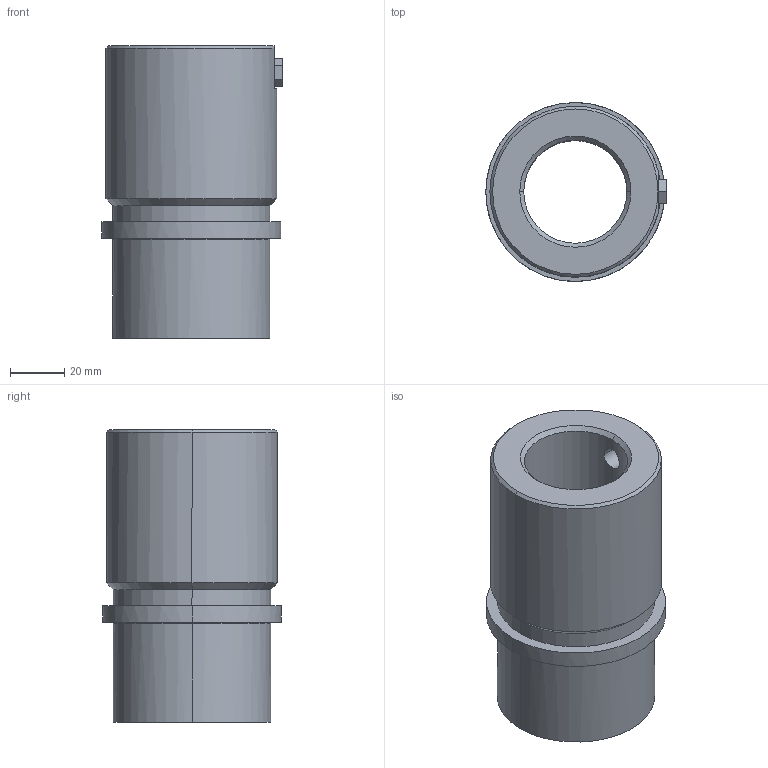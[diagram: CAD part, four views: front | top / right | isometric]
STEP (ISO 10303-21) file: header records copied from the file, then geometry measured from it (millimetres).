
FILE_DESCRIPTION(('CATIA V5 STEP Exchange'),'2;1');
FILE_NAME('C:\Users\Utente\Desktop\IO LAVORO\3D X SITO CF\X SITO\742\742-38.stp','2021-01-23T10:45:09+00:00',('none'),('none'),'CATIA Version 5 Release 20 GA (IN-10)','CATIA V5 STEP AP203','none');
FILE_SCHEMA(('CONFIG_CONTROL_DESIGN'));
Length unit declared in the file: millimetre
Products named in the file (1): 742-38
Assembly tree (1 placements, depth 2):
  742-38
    #58
Bounding box: 66.5 x 66 x 108 mm (x, y, z)
Volume: 194077.3 mm3; surface area: 39128 mm2
Topology: 1 solids, 1 shells, 38 faces, 90 edges, 57 vertices
Faces by surface type: plane 14, cylinder 12, cone 8, torus 4
Entity records: 1265 total; most frequent: CARTESIAN_POINT 352, ORIENTED_EDGE 180, DIRECTION 155, EDGE_CURVE 90, AXIS2_PLACEMENT_3D 74, VERTEX_POINT 57, EDGE_LOOP 43, VECTOR 41
